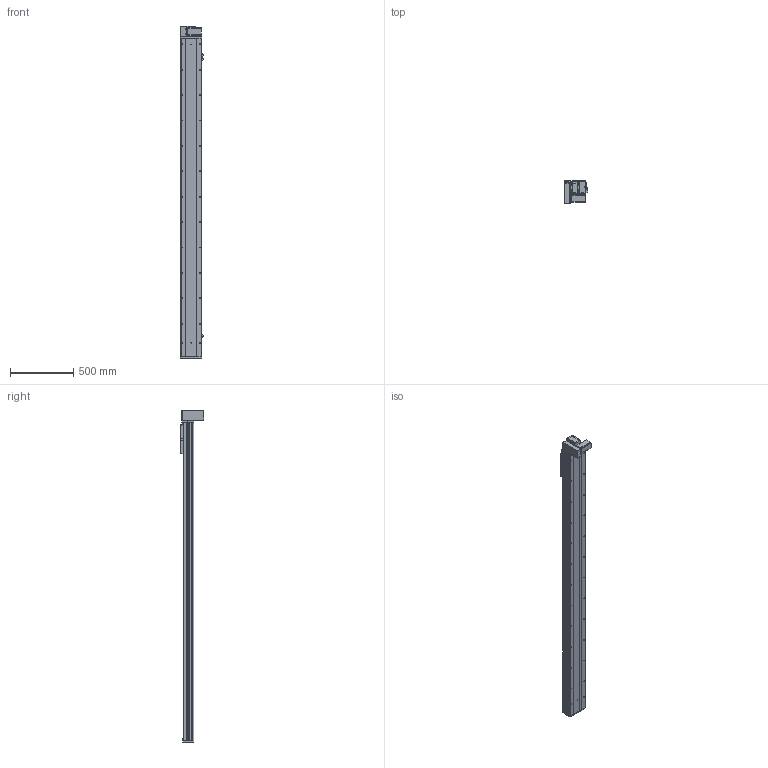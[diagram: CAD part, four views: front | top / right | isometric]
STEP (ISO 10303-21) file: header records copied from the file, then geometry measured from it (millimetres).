
FILE_DESCRIPTION (( 'STEP AP203' ), '1' );
FILE_NAME ('Y170CB-D105-S2200-BM-P400W.STEP', '2020-02-20T07:35:59', ( '微软用户' ), ( '微软中国' ), 'SwSTEP 2.0', 'SolidWorks 2017', '' );
FILE_SCHEMA (( 'CONFIG_CONTROL_DESIGN' ));
Length unit declared in the file: millimetre
Products named in the file (18): Y100-135俋离換覜ん--; 70CB-掛极-; Y170CB-陔俋离換覜結え---; --70CB --喘謫眊楊擘啣-; Y1埴倛裔; 70CB-耜裔啣-; 17B-耜蚾蟀諉啣----; 70C--詩湍揤踡え-; 00B-俋欶BM--163; 70CB--耜裔; 70B喘謫眊----; 70C-雄赽釱-奻-; B-源倛裔啣; Y170CB-D105-S2200-BM-P400W; 0C--雄赽釱俋欶-170; 0B-萇儂楊擘啣; 70CB-詩湍--; san松下电机400不带刹车----
Assembly tree (21 placements, depth 2):
  Y170CB-D105-S2200-BM-P400W
    B-源倛裔啣
    0B-萇儂楊擘啣
    san松下电机400不带刹车----
    70CB-掛极-
    --70CB --喘謫眊楊擘啣-
    70CB-耜裔啣-  x2
    70C--詩湍揤踡え-  x2
    70CB--耜裔
    70C-雄赽釱-奻-
    0C--雄赽釱俋欶-170
    70CB-詩湍--
    Y100-135俋离換覜ん--  x3
    Y170CB-陔俋离換覜結え---
    Y1埴倛裔
    17B-耜蚾蟀諉啣----
    00B-俋欶BM--163
    70B喘謫眊----
Bounding box: 183.5 x 184 x 2616 mm (x, y, z)
Volume: 11264373.5 mm3; surface area: 4064117.1 mm2
Topology: 21 solids, 21 shells, 1055 faces, 2837 edges, 1882 vertices
Faces by surface type: cylinder 569, plane 462, cone 24
Entity records: 33788 total; most frequent: CARTESIAN_POINT 6216, DIRECTION 5498, ORIENTED_EDGE 5156, EDGE_CURVE 2578, AXIS2_PLACEMENT_3D 2028, VERTEX_POINT 1712, LINE 1442, VECTOR 1442
